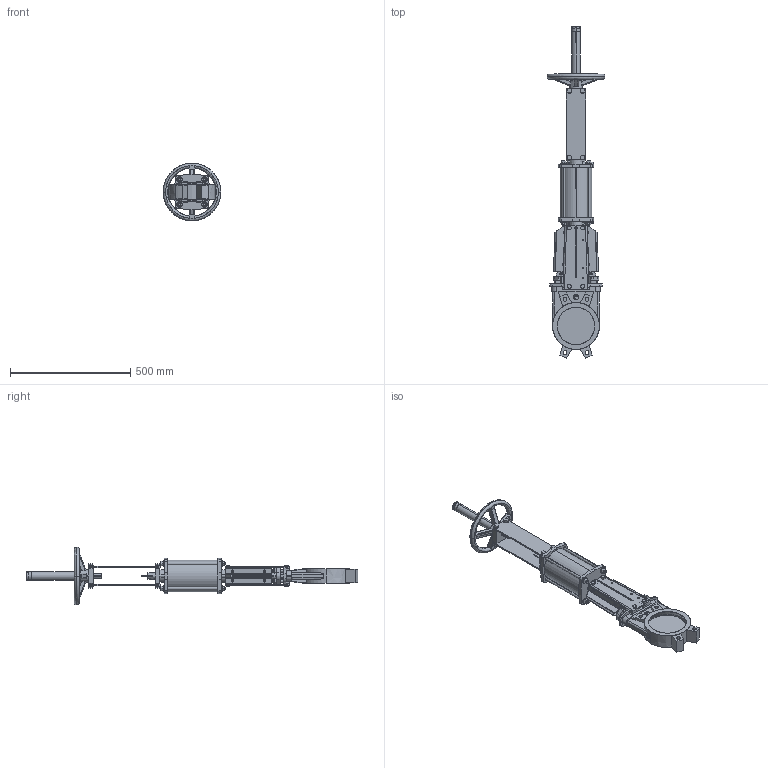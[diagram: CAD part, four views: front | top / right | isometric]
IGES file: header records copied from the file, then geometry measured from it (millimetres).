
Start section: SolidWorks IGES file using analytic representation for surfaces
Global section: file name: D:\part\3D Projects\VG-DOUBLE ACTING(DN50-450)\VG D DN150\VG D DN150.IGS; native system: SolidWorks 2009; preprocessor: SolidWorks 2009; author: zhixin.zheng; date: 100128.101541; units: millimetre
Bounding box: 240 x 1382.72 x 240 mm (x, y, z)
Surface area: 1094496.7 mm2 (no closed solid volume)
Topology: 0 solids, 0 shells, 1358 faces, 15690 edges, 15686 vertices
Faces by surface type: bspline 878, revolution 480
